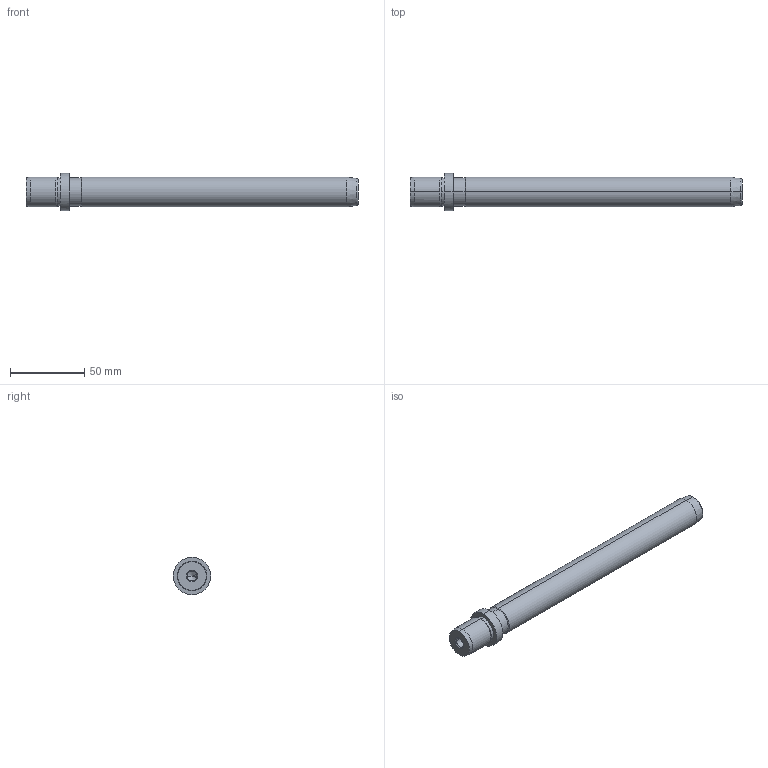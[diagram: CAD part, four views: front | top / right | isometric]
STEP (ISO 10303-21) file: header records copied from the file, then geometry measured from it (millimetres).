
FILE_DESCRIPTION(('CATIA V5 STEP Exchange'),'2;1');
FILE_NAME('C:\Users\Utente\Desktop\IO LAVORO\3D X SITO CF\X SITO\719\719-20x200.stp','2021-01-03T18:08:09+00:00',('none'),('none'),'CATIA Version 5 Release 20 GA (IN-10)','CATIA V5 STEP AP203','none');
FILE_SCHEMA(('CONFIG_CONTROL_DESIGN'));
Length unit declared in the file: millimetre
Products named in the file (1): 719-20x200
Bounding box: 223 x 25 x 25 mm (x, y, z)
Volume: 68782.9 mm3; surface area: 16004.9 mm2
Topology: 1 solids, 1 shells, 36 faces, 100 edges, 66 vertices
Faces by surface type: cone 16, cylinder 14, plane 4, torus 2
Entity records: 1270 total; most frequent: CARTESIAN_POINT 339, ORIENTED_EDGE 192, DIRECTION 158, EDGE_CURVE 96, AXIS2_PLACEMENT_3D 93, VERTEX_POINT 66, CIRCLE 56, EDGE_LOOP 40
